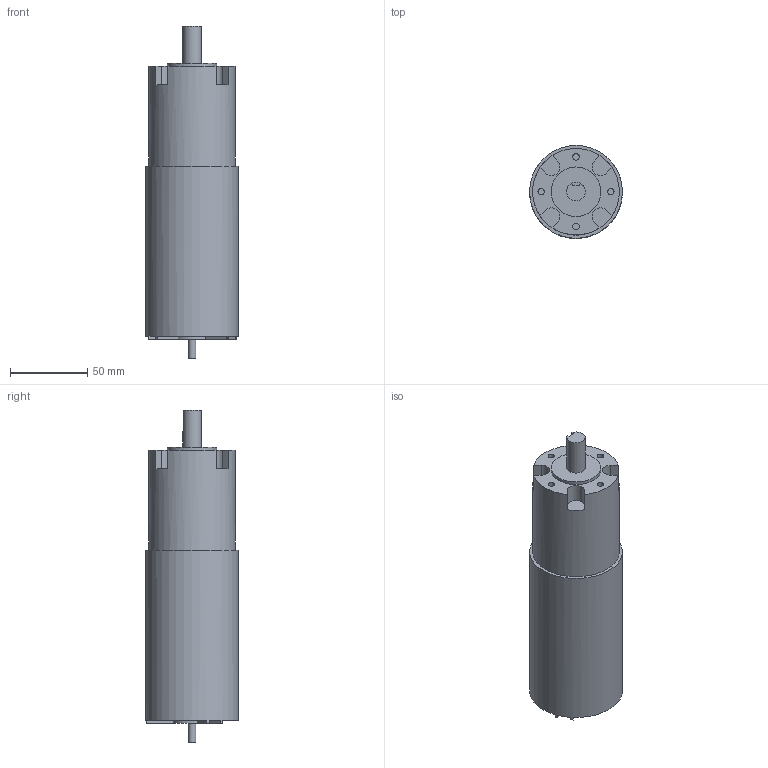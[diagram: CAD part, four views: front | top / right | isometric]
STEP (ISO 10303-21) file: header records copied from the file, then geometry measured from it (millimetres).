
FILE_DESCRIPTION(/* description */ ('Alibre Inc.'),/* implementation_level */ '2;1');
FILE_NAME(/* name */ 'export0',/* time_stamp */ '2013-08-07T14:44:50-06:00',/* author */ (''),/* organization */ (''),/* preprocessor_version */ 'ST-DEVELOPER v14',/* originating_system */ 'Alibre',/* authorisation */ '');
FILE_SCHEMA (('ALIBRE_SCHEMA','CONFIG_CONTROL_DESIGN'));
Length unit declared in the file: centimetre
Products named in the file (1): ID_1
Bounding box: 60 x 60 x 214.5 mm (x, y, z)
Volume: 470127.8 mm3; surface area: 41190.7 mm2
Topology: 1 solids, 4 shells, 76 faces, 178 edges, 118 vertices
Faces by surface type: plane 52, cylinder 24
Full cylindrical faces by diameter (mm): 4 x1, 4.134 x4, 5 x1, 11.455 x1, 11.931 x1, 12 x1, 13.578 x2, 32 x1, 56 x1, 60 x1
Entity records: 6076 total; most frequent: CARTESIAN_POINT 995, DIRECTION 507, REFERENCEDEPENDENTUV 467, CONSTRAINTPAIRUV 417, ORIENTED_EDGE 322, VECTOR 268, REFERENCEPOINTUV 226, LINE 184
